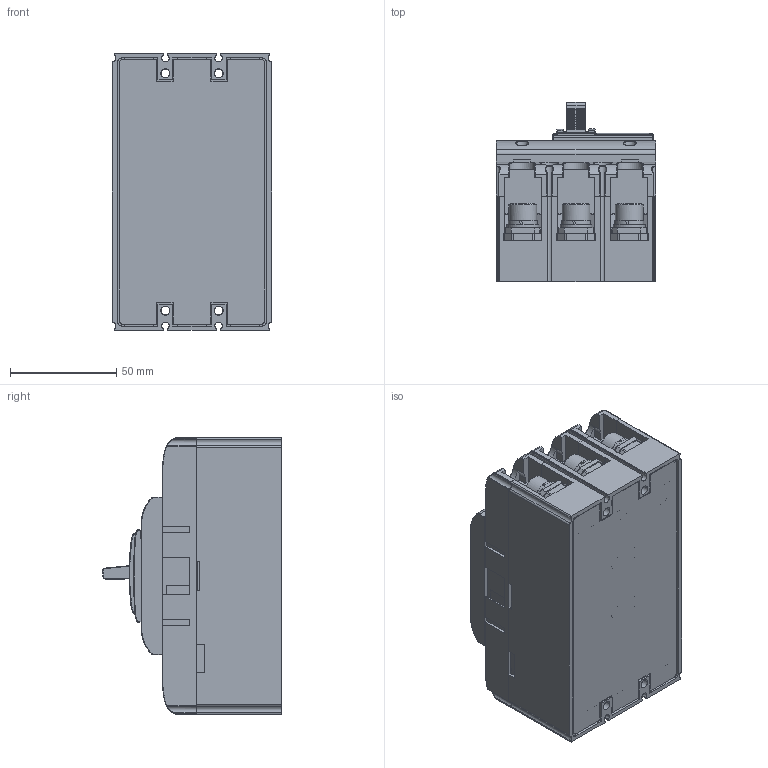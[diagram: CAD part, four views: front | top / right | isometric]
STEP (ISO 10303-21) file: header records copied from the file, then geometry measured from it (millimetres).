
FILE_DESCRIPTION((''),'2;1');
FILE_NAME('TENGEN_1N_K-G-H__TGM1_SW0002','2021-11-04T15:42:17',('DELL'),(''),'CREO PARAMETRIC BY PTC INC, 2019224','CREO PARAMETRIC BY PTC INC, 2019224','');
FILE_SCHEMA(('CONFIG_CONTROL_DESIGN'));
Products named in the file (1): TENGEN_1N_K-G-H__TGM1_SW0002
Bounding box: 75 x 84.11 x 130 mm (x, y, z)
Surface area: 116777.7 mm2 (no closed solid volume)
Topology: 0 solids, 51 shells, 1722 faces, 5559 edges, 3776 vertices
Faces by surface type: plane 962, cylinder 458, bspline 83, torus 82, cone 81, sphere 56
Entity records: 73772 total; most frequent: CARTESIAN_POINT 25923, DIRECTION 9658, ORIENTED_EDGE 9626, EDGE_CURVE 5504, VERTEX_POINT 3776, VECTOR 3448, LINE 3448, AXIS2_PLACEMENT_3D 3105
